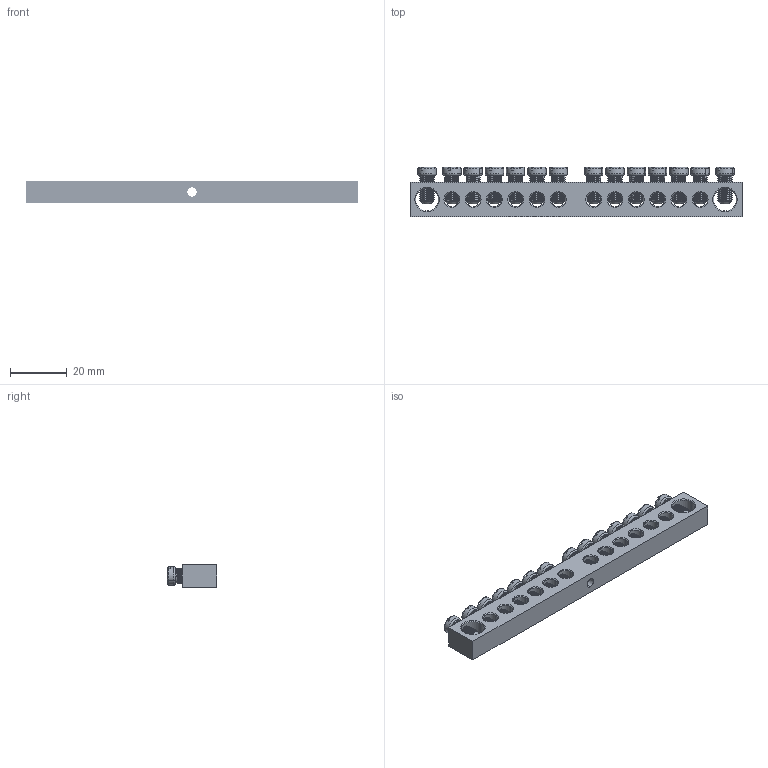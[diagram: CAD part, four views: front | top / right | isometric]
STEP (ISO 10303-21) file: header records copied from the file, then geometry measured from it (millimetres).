
FILE_DESCRIPTION (( 'STEP AP214' ), '1' );
FILE_NAME ('Øèíà íóëåâàÿ ñ êðåïåæíûì îòâåðñòèåì ïî öåíòðó 8õ12 14-1.STEP', '2020-02-07T06:05:52', ( '' ), ( '' ), 'SwSTEP 2.0', 'SolidWorks 2018', '' );
FILE_SCHEMA (( 'AUTOMOTIVE_DESIGN' ));
Length unit declared in the file: millimetre
Products named in the file (3): Âèíò ì5; Øèíà 8õ12 14 1; Øèíà íóëåâàÿ ñ êðåïåæíûì îòâåðñòèåì ïî öåíòðó 8õ12 14-1
Assembly tree (15 placements, depth 2):
  Øèíà íóëåâàÿ ñ êðåïåæíûì îòâåðñòèåì ïî öåíòðó 8õ12 14-1
    Øèíà 8õ12 14 1
    Âèíò ì5  x14
Bounding box: 117 x 17.3 x 8 mm (x, y, z)
Volume: 11343.2 mm3; surface area: 11064.5 mm2
Topology: 15 solids, 15 shells, 1170 faces, 3238 edges, 2084 vertices
Faces by surface type: cylinder 450, plane 384, cone 196, torus 98, bspline 42
Entity records: 9175 total; most frequent: CARTESIAN_POINT 3925, ORIENTED_EDGE 1012, DIRECTION 987, EDGE_CURVE 506, AXIS2_PLACEMENT_3D 391, VERTEX_POINT 316, EDGE_LOOP 254, VECTOR 205
